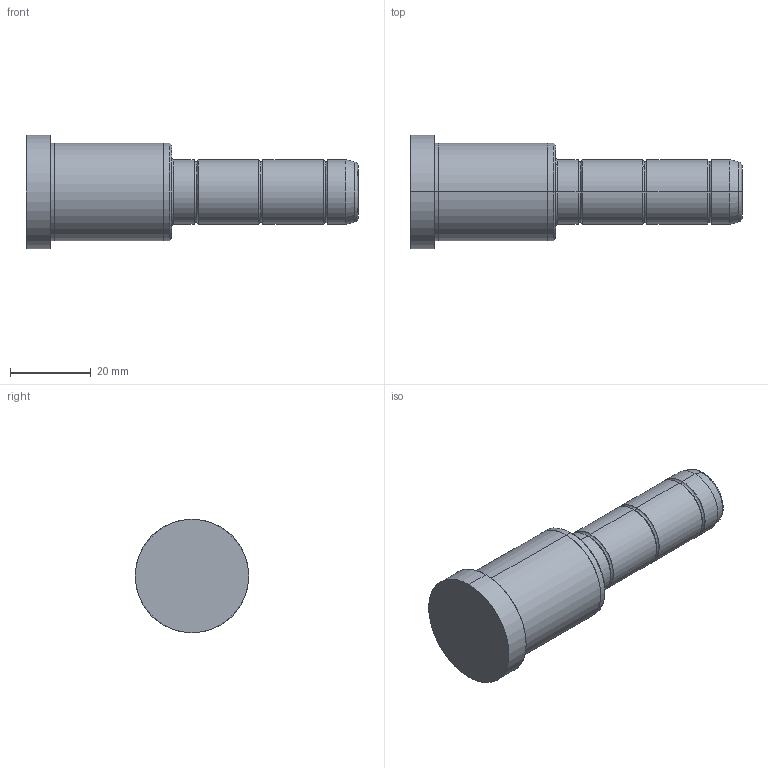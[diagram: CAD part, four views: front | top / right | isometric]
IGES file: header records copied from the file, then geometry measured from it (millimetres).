
Start section: SolidWorks IGES file using analytic representation for surfaces
Global section: file name: C:\Documents and Settings\kalite-mail\Desktop\IGS\D02\16\D02 - 16x36x46.IGS; native system: SolidWorks 2008; preprocessor: SolidWorks 2008; author: kalite-mail; date: 080616.142211; units: millimetre
Bounding box: 82 x 28 x 28 mm (x, y, z)
Surface area: 6328.8 mm2 (no closed solid volume)
Topology: 0 solids, 0 shells, 42 faces, 528 edges, 528 vertices
Faces by surface type: bspline 22, revolution 20
